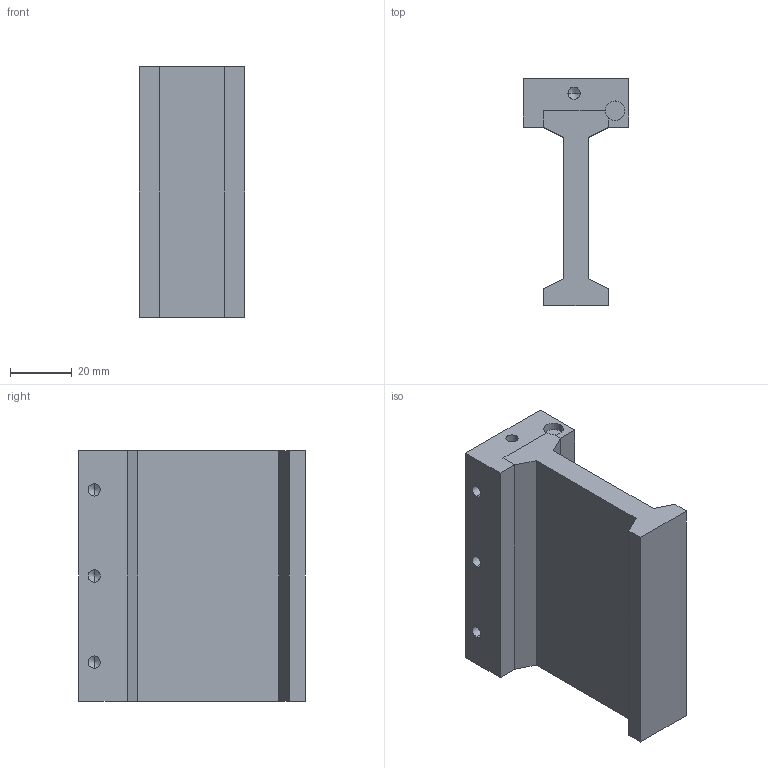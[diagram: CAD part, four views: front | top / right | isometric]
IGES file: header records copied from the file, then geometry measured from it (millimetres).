
Global section: file name: No Iges File Name specified; native system: AutoDesk Inventor R11.0; preprocessor: AutoDesk Inventor Iges Exporter R11.0; author: No Author specified; organization: No Organization specified; date: 20080205.101040; units: inch
Bounding box: 34.29 x 73.66 x 81.28 mm (x, y, z)
Volume: 89876.8 mm3; surface area: 21684.7 mm2
Topology: 1 solids, 1 shells, 41 faces, 105 edges, 61 vertices
Faces by surface type: bspline 20, plane 19, revolution 2
